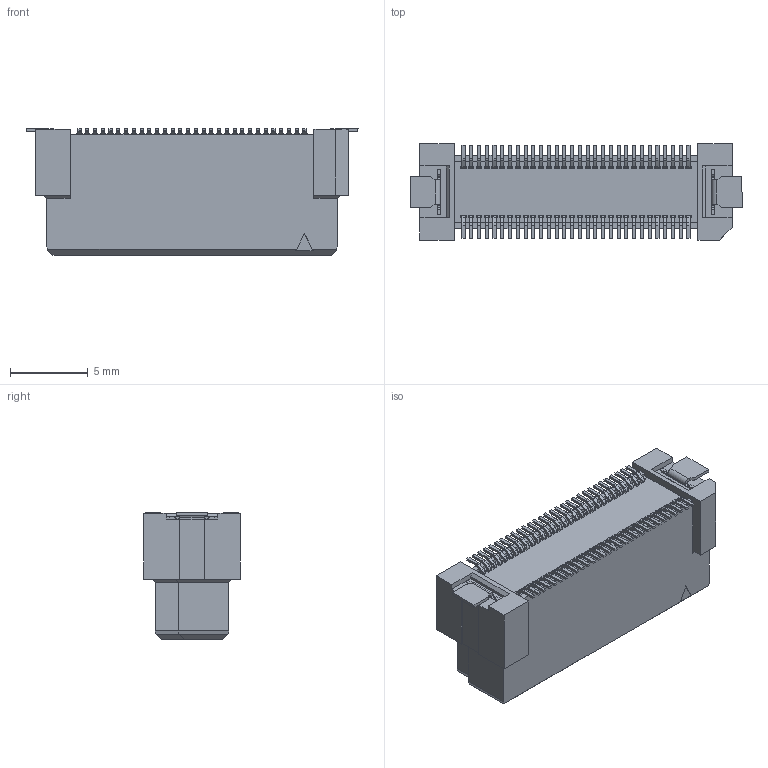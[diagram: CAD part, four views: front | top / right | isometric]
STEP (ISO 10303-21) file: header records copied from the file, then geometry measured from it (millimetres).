
FILE_DESCRIPTION(('Creo Elements/Direct Modeling STEP Export'),'2;1');
FILE_NAME('DT10-060S-10-T.stp','2017-08-11T10:07:29',(''),(''),'Creo Elements/Direct Modeling STEP processor for AP214 (Solid Model)','Creo Elements/Direct Modeling 19.0F 14-Feb-2017 (C) Parametric Technology GmbH','');
FILE_SCHEMA(('AUTOMOTIVE_DESIGN { 1 0 10303 214 1 1 1 1 }'));
Products named in the file (2): DT10-060S-10-T
Assembly tree (1 placements, depth 2):
  DT10-060S-10-T
    DT10-060S-10-T
Bounding box: 21.4 x 6.2 x 8.18 mm (x, y, z)
Volume: 651.5 mm3; surface area: 1110.7 mm2
Topology: 1 solids, 1 shells, 2171 faces, 6159 edges, 4113 vertices
Faces by surface type: plane 1859, cylinder 312
Entity records: 69026 total; most frequent: ORIENTED_EDGE 12318, CARTESIAN_POINT 12278, DIRECTION 11026, EDGE_CURVE 6159, VECTOR 5304, LINE 5304, VERTEX_POINT 4113, AXIS2_PLACEMENT_3D 2861
